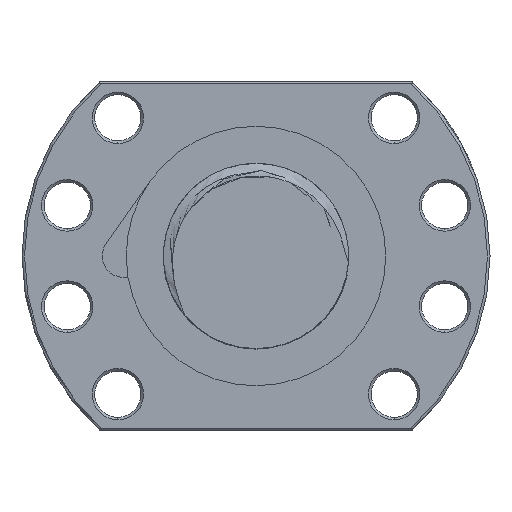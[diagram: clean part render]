
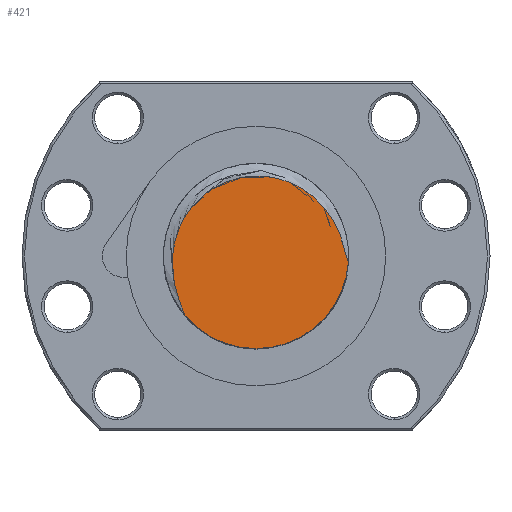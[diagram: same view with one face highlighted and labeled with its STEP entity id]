
A CAD part, left-side view. The second image highlights one B-rep face of the part: STEP entity #421.
In plain terms, the highlighted planar face has unit normal (-1, 0, 0).
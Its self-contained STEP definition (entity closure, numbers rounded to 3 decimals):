
#170 = VERTEX_POINT ( 'NONE', #3119 ) ;
#172 = EDGE_CURVE ( 'NONE', #170, #183, #3117, .T. ) ;
#183 = VERTEX_POINT ( 'NONE', #3157 ) ;
#200 = EDGE_CURVE ( 'NONE', #201, #170, #3508, .T. ) ;
#201 = VERTEX_POINT ( 'NONE', #3503 ) ;
#421 = ADVANCED_FACE ( 'NONE', ( #5479 ), #5465, .F. ) ;
#422 = EDGE_LOOP ( 'NONE', ( #423, #424, #426 ) ) ;
#423 = ORIENTED_EDGE ( 'NONE', *, *, #200, .F. ) ;
#424 = ORIENTED_EDGE ( 'NONE', *, *, #425, .T. ) ;
#425 = EDGE_CURVE ( 'NONE', #201, #183, #5460, .T. ) ;
#426 = ORIENTED_EDGE ( 'NONE', *, *, #172, .F. ) ;
#3113 = DIRECTION ( 'NONE',  ( 0., 1., 0. ) ) ;
#3114 = DIRECTION ( 'NONE',  ( 1., 0., 0. ) ) ;
#3115 = CARTESIAN_POINT ( 'NONE',  ( -128., 0., 0. ) ) ;
#3116 = AXIS2_PLACEMENT_3D ( 'NONE', #3115, #3114, #3113 ) ;
#3117 = CIRCLE ( 'NONE', #3116, 18. ) ;
#3119 = CARTESIAN_POINT ( 'NONE',  ( -128., 0., -18. ) ) ;
#3157 = CARTESIAN_POINT ( 'NONE',  ( -128., 13.807, -11.548 ) ) ;
#3503 = CARTESIAN_POINT ( 'NONE',  ( -128., -17.958, -1.227 ) ) ;
#3504 = DIRECTION ( 'NONE',  ( 0., 1., 0. ) ) ;
#3505 = DIRECTION ( 'NONE',  ( 1., 0., 0. ) ) ;
#3506 = CARTESIAN_POINT ( 'NONE',  ( -128., 0., 0. ) ) ;
#3507 = AXIS2_PLACEMENT_3D ( 'NONE', #3506, #3505, #3504 ) ;
#3508 = CIRCLE ( 'NONE', #3507, 18. ) ;
#5110 = CARTESIAN_POINT ( 'NONE',  ( -128., -9.753, 12.593 ) ) ;
#5111 = CARTESIAN_POINT ( 'NONE',  ( -128., -10.026, 12.401 ) ) ;
#5122 = CARTESIAN_POINT ( 'NONE',  ( -128., -8.918, 13.133 ) ) ;
#5123 = CARTESIAN_POINT ( 'NONE',  ( -128., -9.199, 12.959 ) ) ;
#5133 = CARTESIAN_POINT ( 'NONE',  ( -128., 1.529, 15.48 ) ) ;
#5134 = CARTESIAN_POINT ( 'NONE',  ( -128., 2.188, 15.394 ) ) ;
#5135 = CARTESIAN_POINT ( 'NONE',  ( -128., -0.464, 15.617 ) ) ;
#5136 = CARTESIAN_POINT ( 'NONE',  ( -128., -5.65, 14.676 ) ) ;
#5137 = CARTESIAN_POINT ( 'NONE',  ( -128., 4.12, 14.984 ) ) ;
#5138 = CARTESIAN_POINT ( 'NONE',  ( -128., 3.483, 15.146 ) ) ;
#5139 = CARTESIAN_POINT ( 'NONE',  ( -128., -7.475, 13.925 ) ) ;
#5140 = CARTESIAN_POINT ( 'NONE',  ( -128., -8.062, 13.629 ) ) ;
#5141 = CARTESIAN_POINT ( 'NONE',  ( -128., -1.778, 15.549 ) ) ;
#5142 = CARTESIAN_POINT ( 'NONE',  ( -128., -3.402, 15.268 ) ) ;
#5143 = CARTESIAN_POINT ( 'NONE',  ( -128., -6.269, 14.448 ) ) ;
#5144 = CARTESIAN_POINT ( 'NONE',  ( -128., -3.726, 15.202 ) ) ;
#5145 = CARTESIAN_POINT ( 'NONE',  ( -128., -4.372, 15.05 ) ) ;
#5146 = CARTESIAN_POINT ( 'NONE',  ( -128., -4.695, 14.963 ) ) ;
#5149 = CARTESIAN_POINT ( 'NONE',  ( -128., 10.965, 11.117 ) ) ;
#5150 = CARTESIAN_POINT ( 'NONE',  ( -128., 10.471, 11.562 ) ) ;
#5151 = CARTESIAN_POINT ( 'NONE',  ( -128., 10.219, 11.777 ) ) ;
#5152 = CARTESIAN_POINT ( 'NONE',  ( -128., 9.444, 12.394 ) ) ;
#5154 = CARTESIAN_POINT ( 'NONE',  ( -128., 14.5, 6.358 ) ) ;
#5155 = CARTESIAN_POINT ( 'NONE',  ( -128., 14.19, 6.952 ) ) ;
#5156 = CARTESIAN_POINT ( 'NONE',  ( -128., 13.17, 8.657 ) ) ;
#5157 = CARTESIAN_POINT ( 'NONE',  ( -128., 12.368, 9.701 ) ) ;
#5158 = CARTESIAN_POINT ( 'NONE',  ( -128., 11.207, 10.885 ) ) ;
#5162 = CARTESIAN_POINT ( 'NONE',  ( -128., 8.905, 12.773 ) ) ;
#5163 = CARTESIAN_POINT ( 'NONE',  ( -128., 7.785, 13.465 ) ) ;
#5165 = CARTESIAN_POINT ( 'NONE',  ( -128., 5.994, 14.338 ) ) ;
#5166 = CARTESIAN_POINT ( 'NONE',  ( -128., 5.374, 14.58 ) ) ;
#5167 = CARTESIAN_POINT ( 'NONE',  ( -128., 7.203, 13.778 ) ) ;
#5266 = CARTESIAN_POINT ( 'NONE',  ( -128., 15.274, 4.534 ) ) ;
#5267 = CARTESIAN_POINT ( 'NONE',  ( -128., 15.041, 5.15 ) ) ;
#5268 = CARTESIAN_POINT ( 'NONE',  ( -128., 15.669, 3.279 ) ) ;
#5318 = CARTESIAN_POINT ( 'NONE',  ( -128., 16.33, -1.303 ) ) ;
#5319 = CARTESIAN_POINT ( 'NONE',  ( -128., 15.904, -5.25 ) ) ;
#5320 = CARTESIAN_POINT ( 'NONE',  ( -128., 16.073, 1.332 ) ) ;
#5321 = CARTESIAN_POINT ( 'NONE',  ( -128., 16.198, 0.344 ) ) ;
#5322 = CARTESIAN_POINT ( 'NONE',  ( -128., 14.037, -10.923 ) ) ;
#5323 = CARTESIAN_POINT ( 'NONE',  ( -128., 14.283, -10.305 ) ) ;
#5324 = CARTESIAN_POINT ( 'NONE',  ( -128., 15.419, -7.18 ) ) ;
#5325 = CARTESIAN_POINT ( 'NONE',  ( -128., 15.6, -6.542 ) ) ;
#5326 = CARTESIAN_POINT ( 'NONE',  ( -128., 16.162, 0.673 ) ) ;
#5327 = CARTESIAN_POINT ( 'NONE',  ( -128., 16.019, 1.662 ) ) ;
#5328 = CARTESIAN_POINT ( 'NONE',  ( -128., 15.83, 2.639 ) ) ;
#5329 = CARTESIAN_POINT ( 'NONE',  ( -128., 14.408, -9.996 ) ) ;
#5330 = CARTESIAN_POINT ( 'NONE',  ( -128., 14.774, -9.067 ) ) ;
#5331 = CARTESIAN_POINT ( 'NONE',  ( -128., 16.291, -2.619 ) ) ;
#5332 = CARTESIAN_POINT ( 'NONE',  ( -128., 15.006, -8.443 ) ) ;
#5333 = CARTESIAN_POINT ( 'NONE',  ( -128., 16.027, -4.594 ) ) ;
#5334 = CARTESIAN_POINT ( 'NONE',  ( -128., 13.807, -11.548 ) ) ;
#5335 = CARTESIAN_POINT ( 'NONE',  ( -128., 13.914, -11.232 ) ) ;
#5443 = CARTESIAN_POINT ( 'NONE',  ( -128., -11.357, 11.405 ) ) ;
#5444 = CARTESIAN_POINT ( 'NONE',  ( -128., -12.31, 10.499 ) ) ;
#5445 = CARTESIAN_POINT ( 'NONE',  ( -128., -13.377, 9.241 ) ) ;
#5446 = CARTESIAN_POINT ( 'NONE',  ( -128., -13.584, 8.983 ) ) ;
#5447 = CARTESIAN_POINT ( 'NONE',  ( -128., -13.986, 8.455 ) ) ;
#5448 = CARTESIAN_POINT ( 'NONE',  ( -128., -14.18, 8.183 ) ) ;
#5449 = CARTESIAN_POINT ( 'NONE',  ( -128., -14.739, 7.359 ) ) ;
#5450 = CARTESIAN_POINT ( 'NONE',  ( -128., -15.079, 6.795 ) ) ;
#5451 = CARTESIAN_POINT ( 'NONE',  ( -128., -16.008, 5.062 ) ) ;
#5452 = CARTESIAN_POINT ( 'NONE',  ( -128., -16.503, 3.852 ) ) ;
#5453 = CARTESIAN_POINT ( 'NONE',  ( -128., -17.107, 1.973 ) ) ;
#5454 = CARTESIAN_POINT ( 'NONE',  ( -128., -17.285, 1.336 ) ) ;
#5455 = CARTESIAN_POINT ( 'NONE',  ( -128., -17.533, 0.374 ) ) ;
#5456 = CARTESIAN_POINT ( 'NONE',  ( -128., -17.613, 0.052 ) ) ;
#5457 = CARTESIAN_POINT ( 'NONE',  ( -128., -17.776, -0.59 ) ) ;
#5458 = CARTESIAN_POINT ( 'NONE',  ( -128., -17.859, -0.911 ) ) ;
#5459 = CARTESIAN_POINT ( 'NONE',  ( -128., -17.958, -1.227 ) ) ;
#5460 = B_SPLINE_CURVE_WITH_KNOTS ( 'NONE', 3,
 ( #5459, #5458, #5457, #5456, #5455, #5454, #5453, #5452, #5451, #5450, #5449, #5448, #5447, #5446, #5445, #5444, #5443, #5111, #5110, #5123, #5122, #5140, #5139, #5143, #5136, #5146, #5145, #5144, #5142, #5141, #5135, #5133, #5134, #5138, #5137, #5166, #5165, #5167, #5163, #5162, #5152, #5151, #5150, #5149, #5158, #5157, #5156, #5155, #5154, #5267, #5266, #5268, #5328, #5327, #5320, #5326, #5321, #5318, #5331, #5333, #5319, #5325, #5324, #5332, #5330, #5329, #5323, #5322, #5335, #5334 ),
 .UNSPECIFIED., .F., .F.,
 ( 4, 2, 2, 2, 2, 2, 2, 2, 2, 2, 2, 2, 2, 2, 2, 2, 2, 2, 2, 2, 2, 2, 2, 2, 2, 2, 2, 2, 2, 2, 2, 2, 2, 2, 4 ),
 ( 0.001, 0.002, 0.003, 0.005, 0.009, 0.011, 0.012, 0.013, 0.017, 0.018, 0.019, 0.021, 0.023, 0.024, 0.025, 0.028, 0.03, 0.032, 0.034, 0.036, 0.038, 0.039, 0.04, 0.044, 0.046, 0.048, 0.05, 0.051, 0.052, 0.056, 0.058, 0.06, 0.062, 0.063, 0.064 ),
 .UNSPECIFIED. ) ;
#5461 = DIRECTION ( 'NONE',  ( 0., 0., -1. ) ) ;
#5462 = DIRECTION ( 'NONE',  ( 1., 0., 0. ) ) ;
#5463 = CARTESIAN_POINT ( 'NONE',  ( -128., 0., 0. ) ) ;
#5464 = AXIS2_PLACEMENT_3D ( 'NONE', #5463, #5462, #5461 ) ;
#5465 = PLANE ( 'NONE',  #5464 ) ;
#5479 = FACE_OUTER_BOUND ( 'NONE', #422, .T. ) ;
